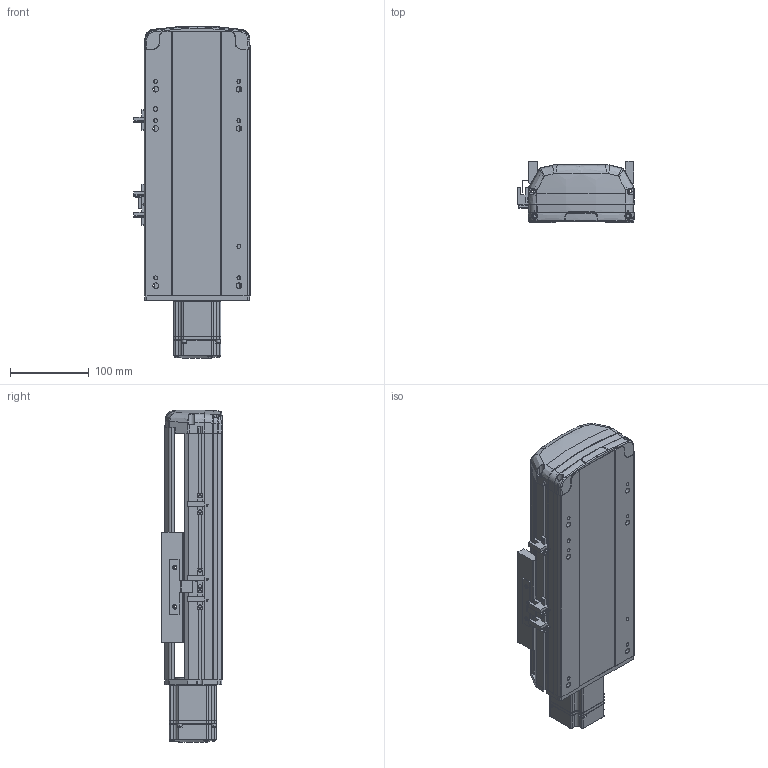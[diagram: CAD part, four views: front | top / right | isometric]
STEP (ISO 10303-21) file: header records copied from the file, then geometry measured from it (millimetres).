
FILE_DESCRIPTION (( 'STEP AP214' ), '1' );
FILE_NAME ('RTH14-XX-100-E-M20-C4.STEP', '2025-10-24T09:04:29', ( 'Microsoft' ), ( 'Microsoft' ), 'SwSTEP 2.0', 'SolidWorks 2018', '' );
FILE_SCHEMA (( 'AUTOMOTIVE_DESIGN' ));
Length unit declared in the file: millimetre
Products named in the file (9): N_RTH13-E-008萇儂耜猾裔^RTH14-XX-XX-E-M20-C4; RTH14-XX-100-E-M20-C4; N_RTH14-E-007P奻裔^RTH14-XX-XX-E-M20-C4; N_RTH14-R-004-SFSR16賑釱^RTH14-XX-XX-E-M20-C4; N_RTH13-L-012感应片（外置）^RTH14-XX-XX-E-M20-C4; N_RTH14-GY-001P^RTH14-XX-XX-E-M20-C4; N_MSMD022P1AA_200W^RTH14-XX-XX-E-M20-C4; N_OMRON EE-SX672 传感器^RTH14-XX-XX-E-M20-C4; N_RTH14-E-011P菁釱^RTH14-XX-XX-E-M20-C4
Assembly tree (10 placements, depth 2):
  RTH14-XX-100-E-M20-C4
    N_RTH14-E-011P菁釱^RTH14-XX-XX-E-M20-C4
    N_RTH14-E-007P奻裔^RTH14-XX-XX-E-M20-C4
    N_MSMD022P1AA_200W^RTH14-XX-XX-E-M20-C4
    N_RTH13-L-012感应片（外置）^RTH14-XX-XX-E-M20-C4
    N_OMRON EE-SX672 传感器^RTH14-XX-XX-E-M20-C4  x3
    N_RTH13-E-008萇儂耜猾裔^RTH14-XX-XX-E-M20-C4
    N_RTH14-R-004-SFSR16賑釱^RTH14-XX-XX-E-M20-C4
    N_RTH14-GY-001P^RTH14-XX-XX-E-M20-C4
Bounding box: 148.5 x 78.03 x 422.49 mm (x, y, z)
Volume: 1981553.8 mm3; surface area: 433900.6 mm2
Topology: 10 solids, 10 shells, 1839 faces, 5170 edges, 3396 vertices
Faces by surface type: plane 973, cylinder 476, bspline 341, cone 45, torus 4
Entity records: 56092 total; most frequent: CARTESIAN_POINT 22584, ORIENTED_EDGE 7408, DIRECTION 5923, EDGE_CURVE 3704, VERTEX_POINT 2432, LINE 2139, VECTOR 2139, AXIS2_PLACEMENT_3D 1892
